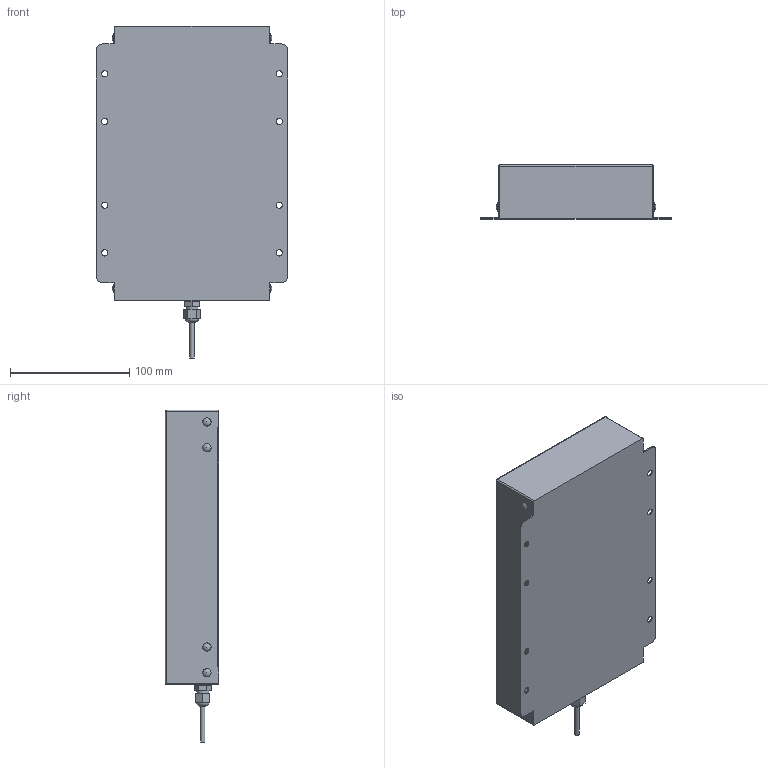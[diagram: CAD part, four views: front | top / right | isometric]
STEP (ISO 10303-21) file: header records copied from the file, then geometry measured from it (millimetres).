
FILE_DESCRIPTION (( 'STEP AP203' ), '1' );
FILE_NAME ('HDSBPA-200x100_-24.STEP', '2023-04-18T04:20:22', ( '' ), ( '' ), 'SwSTEP 2.0', 'SolidWorks 2022', '' );
FILE_SCHEMA (( 'CONFIG_CONTROL_DESIGN' ));
Length unit declared in the file: millimetre
Products named in the file (1): HDSBPA-200x100_-24
Bounding box: 160 x 45 x 278 mm (x, y, z)
Volume: 1333810.3 mm3; surface area: 105447.1 mm2
Topology: 1 solids, 1 shells, 92 faces, 234 edges, 146 vertices
Faces by surface type: plane 48, cylinder 31, sphere 12, torus 1
Full cylindrical faces by diameter (mm): 3.7 x1, 5.2 x8, 6.9 x8, 10 x1, 12.5 x1
Entity records: 2531 total; most frequent: DIRECTION 444, CARTESIAN_POINT 403, ORIENTED_EDGE 366, EDGE_CURVE 183, AXIS2_PLACEMENT_3D 168, EDGE_LOOP 142, VERTEX_POINT 127, FACE_OUTER_BOUND 112
